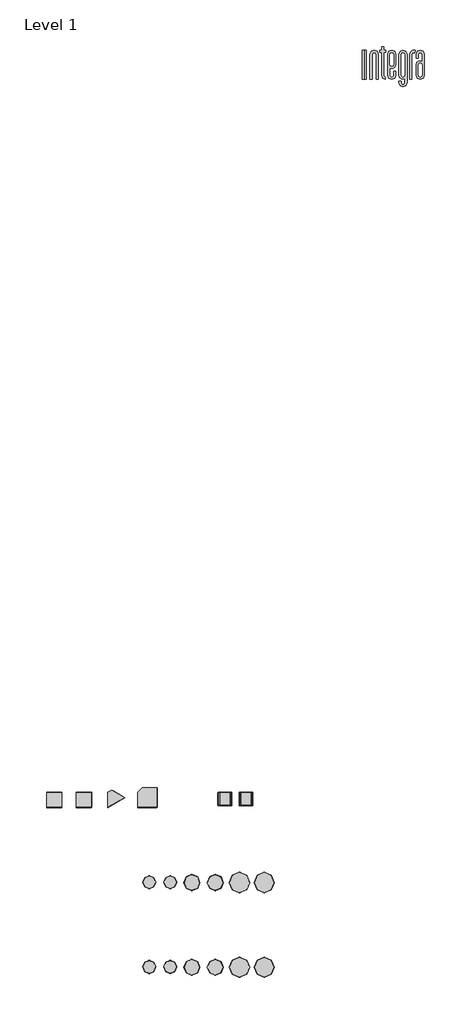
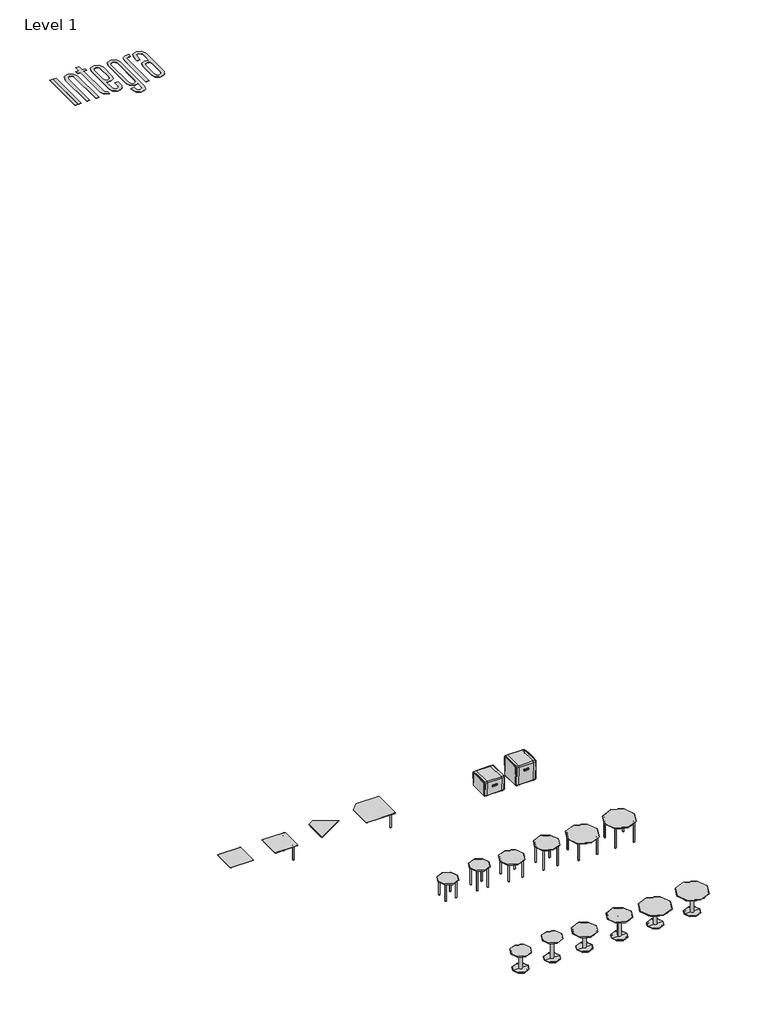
# One storey, incomplete: 18 furniture elements, 1 proxy.
"""IFC4 building model written with IfcOpenShell, lengths in millimetres."""

from ifc_helpers import new_model, si_unit, origin, place, context, project, spatial, transform, mapped, element, save
from components import generic_models_e4622b55, furniture_d97fed5a, furniture_3896681b, furniture_af0bdf14, furniture_d5846d6e, furniture_26db92c6, furniture_3583faa9, furniture_bad97d5b, furniture_e6a5d693, furniture_cae93756, cylinder_leg_table_18_round_x_17_5h_52528be8, cylinder_leg_table_18_round_x_20_5h_a726e20a, cylinder_leg_table_22_round_x_17_5h_ca37e473, cylinder_leg_table_22_round_x_20_5h_de9a7b23, cylinder_leg_table_28_round_x_17_5h_023fe422, cylinder_leg_table_28_round_x_20_5h_47d25741, pedestal_base_table_18_round_x_17_5h_f57ef465, pedestal_base_table_18_round_x_20_5h_81a6ba7d, pedestal_base_table_22_round_x_17_5h_480383c4, pedestal_base_table_22_round_x_20_5h_a3d0145e, pedestal_base_table_28_round_x_17_5h_999123bd, pedestal_base_table_28_round_x_20_5h_dd61f7c6

model = new_model("IFC4")

# Units and contexts
model_context = context("Model", 3, world=origin())
ifc_project = project(units=[si_unit("LENGTHUNIT", "METRE", prefix="MILLI")], contexts=[model_context])

# Site, building, storey
site = spatial("IfcSite", under=ifc_project)
building = spatial("IfcBuilding", under=site)
storey = spatial("IfcBuildingStorey", under=building, Name="Level 1", Elevation=0.0)

# Proxy
placement = place(None, origin())
generic_models_shape = generic_models_e4622b55(model_context)
element("IfcBuildingElementProxy", 1, Name="Integra Logo : Integra Logo", ObjectType="Integra Logo : Integra Logo", at=placement, inside=storey, context=model_context, shape_type="MappedRepresentation", body=[
    mapped(generic_models_shape, transform((1757.7751316, 9153.3798862, 0.0), x_axis=(1.0, 0.0, 0.0), y_axis=(0.0, 1.0, 0.0), z_axis=(0.0, 0.0, 1.0))),
])

# Furniture
furniture_shape = furniture_d97fed5a(model_context)
element("IfcFurniture", 2, ObjectType="Integra - Coastal Collection - Tide Metal - System Table : Tide - 60° In-Line Table", at=placement, inside=storey, context=model_context, shape_type="MappedRepresentation", body=[
    mapped(furniture_shape, transform((-7703.5456717, -16383.2149149, 0.0), x_axis=(1.0, 0.0, 0.0), y_axis=(0.0, 1.0, 0.0), z_axis=(0.0, 0.0, 1.0))),
])
furniture_2_shape = furniture_3896681b(model_context)
element("IfcFurniture", 3, ObjectType="Integra - Coastal Collection - Tide Metal - System Table : Tide - 90° Two-Way Table", at=placement, inside=storey, context=model_context, shape_type="MappedRepresentation", body=[
    mapped(furniture_2_shape, transform((-6662.1456717, -16383.2149149, 0.0), x_axis=(1.0, 0.0, 0.0), y_axis=(0.0, 1.0, 0.0), z_axis=(0.0, 0.0, 1.0))),
])
furniture_3_shape = furniture_af0bdf14(model_context)
element("IfcFurniture", 4, ObjectType="Integra - Coastal Collection - Tide Metal - System Table : Tide - In-Line Table", at=placement, inside=storey, context=model_context, shape_type="MappedRepresentation", body=[
    mapped(furniture_3_shape, transform((-9837.1456717, -16383.2149149, 0.0), x_axis=(1.0, 0.0, 0.0), y_axis=(0.0, 1.0, 0.0), z_axis=(0.0, 0.0, 1.0))),
])
furniture_4_shape = furniture_d5846d6e(model_context)
element("IfcFurniture", 5, ObjectType="Integra - Coastal Collection - Tide Metal - System Table : Tide - End Table", at=placement, inside=storey, context=model_context, shape_type="MappedRepresentation", body=[
    mapped(furniture_4_shape, transform((-8795.7456717, -16383.2149149, 0.0), x_axis=(1.0, 0.0, 0.0), y_axis=(0.0, 1.0, 0.0), z_axis=(0.0, 0.0, 1.0))),
])
furniture_5_shape = furniture_26db92c6(model_context)
furniture_6_shape = furniture_3583faa9(model_context)
furniture_7_shape = furniture_bad97d5b(model_context)
element("IfcFurniture", 6, ObjectType="Integra - Coastal Collection - Tide Footstool : 13.25\"H", at=placement, inside=storey, context=model_context, shape_type="MappedRepresentation", body=[
    mapped(furniture_5_shape, transform((-3635.50141, -16354.6399149, 0.0), x_axis=(1.0, 0.0, 0.0), y_axis=(0.0, 1.0, 0.0), z_axis=(0.0, 0.0, 1.0))),
    mapped(furniture_6_shape, transform((-3635.50141, -16354.6399149, 0.0), x_axis=(1.0, 0.0, 0.0), y_axis=(0.0, 1.0, 0.0), z_axis=(0.0, 0.0, 1.0))),
    mapped(furniture_7_shape, transform((-3635.50141, -16354.6399149, 0.0), x_axis=(1.0, 0.0, 0.0), y_axis=(0.0, 1.0, 0.0), z_axis=(0.0, 0.0, 1.0))),
])
furniture_8_shape = furniture_e6a5d693(model_context)
furniture_9_shape = furniture_cae93756(model_context)
element("IfcFurniture", 7, ObjectType="Integra - Coastal Collection - Tide Footstool : 18\"H", at=placement, inside=storey, context=model_context, shape_type="MappedRepresentation", body=[
    mapped(furniture_8_shape, transform((-2900.1114569, -16354.6399149, 0.0), x_axis=(1.0, 0.0, 0.0), y_axis=(0.0, 1.0, 0.0), z_axis=(0.0, 0.0, 1.0))),
    mapped(furniture_9_shape, transform((-2900.1114569, -16354.6399149, 0.0), x_axis=(1.0, 0.0, 0.0), y_axis=(0.0, 1.0, 0.0), z_axis=(0.0, 0.0, 1.0))),
    mapped(furniture_7_shape, transform((-2900.1114569, -16354.6399149, 0.0), x_axis=(1.0, 0.0, 0.0), y_axis=(0.0, 1.0, 0.0), z_axis=(0.0, 0.0, 1.0))),
])
cylinder_leg_table_18_round_x_17_5h_shape = cylinder_leg_table_18_round_x_17_5h_52528be8(model_context)
element("IfcFurniture", 8, ObjectType="Integra - Coastal Collection - Coastal Metal Tables - Freestanding Table : Cylinder Leg Table - 18 Round x 17.5H", at=placement, inside=storey, context=model_context, shape_type="MappedRepresentation", body=[
    mapped(cylinder_leg_table_18_round_x_17_5h_shape, transform((-6267.6261424, -19250.5081488, 0.0), x_axis=(1.0, 0.0, 0.0), y_axis=(0.0, 1.0, 0.0), z_axis=(0.0, 0.0, 1.0))),
])
cylinder_leg_table_18_round_x_20_5h_shape = cylinder_leg_table_18_round_x_20_5h_a726e20a(model_context)
element("IfcFurniture", 9, ObjectType="Integra - Coastal Collection - Coastal Metal Tables - Freestanding Table : Cylinder Leg Table - 18 Round x 20.5H", at=placement, inside=storey, context=model_context, shape_type="MappedRepresentation", body=[
    mapped(cylinder_leg_table_18_round_x_20_5h_shape, transform((-5531.0261424, -19250.5081488, 0.0), x_axis=(1.0, 0.0, 0.0), y_axis=(0.0, 1.0, 0.0), z_axis=(0.0, 0.0, 1.0))),
])
cylinder_leg_table_22_round_x_17_5h_shape = cylinder_leg_table_22_round_x_17_5h_ca37e473(model_context)
element("IfcFurniture", 10, ObjectType="Integra - Coastal Collection - Coastal Metal Tables - Freestanding Table : Cylinder Leg Table - 22 Round x 17.5H", at=placement, inside=storey, context=model_context, shape_type="MappedRepresentation", body=[
    mapped(cylinder_leg_table_22_round_x_17_5h_shape, transform((-4778.50141, -19259.5017998, 0.0), x_axis=(1.0, 0.0, 0.0), y_axis=(0.0, 1.0, 0.0), z_axis=(0.0, 0.0, 1.0))),
])
cylinder_leg_table_22_round_x_20_5h_shape = cylinder_leg_table_22_round_x_20_5h_de9a7b23(model_context)
element("IfcFurniture", 11, ObjectType="Integra - Coastal Collection - Coastal Metal Tables - Freestanding Table : Cylinder Leg Table - 22 Round x 20.5H", at=placement, inside=storey, context=model_context, shape_type="MappedRepresentation", body=[
    mapped(cylinder_leg_table_22_round_x_20_5h_shape, transform((-3965.70141, -19259.5017998, 0.0), x_axis=(1.0, 0.0, 0.0), y_axis=(0.0, 1.0, 0.0), z_axis=(0.0, 0.0, 1.0))),
])
cylinder_leg_table_28_round_x_17_5h_shape = cylinder_leg_table_28_round_x_17_5h_023fe422(model_context)
element("IfcFurniture", 12, ObjectType="Integra - Coastal Collection - Coastal Metal Tables - Freestanding Table : Cylinder Leg Table - 28 Round x 17.5H", at=placement, inside=storey, context=model_context, shape_type="MappedRepresentation", body=[
    mapped(cylinder_leg_table_28_round_x_17_5h_shape, transform((-3127.50141, -19259.5017998, 0.0), x_axis=(1.0, 0.0, 0.0), y_axis=(0.0, 1.0, 0.0), z_axis=(0.0, 0.0, 1.0))),
])
cylinder_leg_table_28_round_x_20_5h_shape = cylinder_leg_table_28_round_x_20_5h_47d25741(model_context)
element("IfcFurniture", 13, ObjectType="Integra - Coastal Collection - Coastal Metal Tables - Freestanding Table : Cylinder Leg Table - 28 Round x 20.5H", at=placement, inside=storey, context=model_context, shape_type="MappedRepresentation", body=[
    mapped(cylinder_leg_table_28_round_x_20_5h_shape, transform((-2263.90141, -19259.5017998, 0.0), x_axis=(1.0, 0.0, 0.0), y_axis=(0.0, 1.0, 0.0), z_axis=(0.0, 0.0, 1.0))),
])
pedestal_base_table_18_round_x_17_5h_shape = pedestal_base_table_18_round_x_17_5h_f57ef465(model_context)
element("IfcFurniture", 14, ObjectType="Integra - Coastal Collection - Coastal Metal Tables - Freestanding Table : Pedestal Base Table - 18 Round x 17.5H", at=placement, inside=storey, context=model_context, shape_type="MappedRepresentation", body=[
    mapped(pedestal_base_table_18_round_x_17_5h_shape, transform((-6267.6261424, -22196.9081488, 0.0), x_axis=(1.0, 0.0, 0.0), y_axis=(0.0, 1.0, 0.0), z_axis=(0.0, 0.0, 1.0))),
])
pedestal_base_table_18_round_x_20_5h_shape = pedestal_base_table_18_round_x_20_5h_81a6ba7d(model_context)
element("IfcFurniture", 15, ObjectType="Integra - Coastal Collection - Coastal Metal Tables - Freestanding Table : Pedestal Base Table - 18 Round x 20.5H", at=placement, inside=storey, context=model_context, shape_type="MappedRepresentation", body=[
    mapped(pedestal_base_table_18_round_x_20_5h_shape, transform((-5531.0261424, -22196.9081488, 0.0), x_axis=(1.0, 0.0, 0.0), y_axis=(0.0, 1.0, 0.0), z_axis=(0.0, 0.0, 1.0))),
])
pedestal_base_table_22_round_x_17_5h_shape = pedestal_base_table_22_round_x_17_5h_480383c4(model_context)
element("IfcFurniture", 16, ObjectType="Integra - Coastal Collection - Coastal Metal Tables - Freestanding Table : Pedestal Base Table - 22 Round x 17.5H", at=placement, inside=storey, context=model_context, shape_type="MappedRepresentation", body=[
    mapped(pedestal_base_table_22_round_x_17_5h_shape, transform((-4778.50141, -22205.9017998, 0.0), x_axis=(1.0, 0.0, 0.0), y_axis=(0.0, 1.0, 0.0), z_axis=(0.0, 0.0, 1.0))),
])
pedestal_base_table_22_round_x_20_5h_shape = pedestal_base_table_22_round_x_20_5h_a3d0145e(model_context)
element("IfcFurniture", 17, ObjectType="Integra - Coastal Collection - Coastal Metal Tables - Freestanding Table : Pedestal Base Table - 22 Round x 20.5H", at=placement, inside=storey, context=model_context, shape_type="MappedRepresentation", body=[
    mapped(pedestal_base_table_22_round_x_20_5h_shape, transform((-3965.70141, -22205.9017998, 0.0), x_axis=(1.0, 0.0, 0.0), y_axis=(0.0, 1.0, 0.0), z_axis=(0.0, 0.0, 1.0))),
])
pedestal_base_table_28_round_x_17_5h_shape = pedestal_base_table_28_round_x_17_5h_999123bd(model_context)
element("IfcFurniture", 18, ObjectType="Integra - Coastal Collection - Coastal Metal Tables - Freestanding Table : Pedestal Base Table - 28 Round x 17.5H", at=placement, inside=storey, context=model_context, shape_type="MappedRepresentation", body=[
    mapped(pedestal_base_table_28_round_x_17_5h_shape, transform((-3127.50141, -22205.9017998, 0.0), x_axis=(1.0, 0.0, 0.0), y_axis=(0.0, 1.0, 0.0), z_axis=(0.0, 0.0, 1.0))),
])
pedestal_base_table_28_round_x_20_5h_shape = pedestal_base_table_28_round_x_20_5h_dd61f7c6(model_context)
element("IfcFurniture", 19, ObjectType="Integra - Coastal Collection - Coastal Metal Tables - Freestanding Table : Pedestal Base Table - 28 Round x 20.5H", at=placement, inside=storey, context=model_context, shape_type="MappedRepresentation", body=[
    mapped(pedestal_base_table_28_round_x_20_5h_shape, transform((-2263.90141, -22205.9017998, 0.0), x_axis=(1.0, 0.0, 0.0), y_axis=(0.0, 1.0, 0.0), z_axis=(0.0, 0.0, 1.0))),
])

save(model, "model.ifc")
